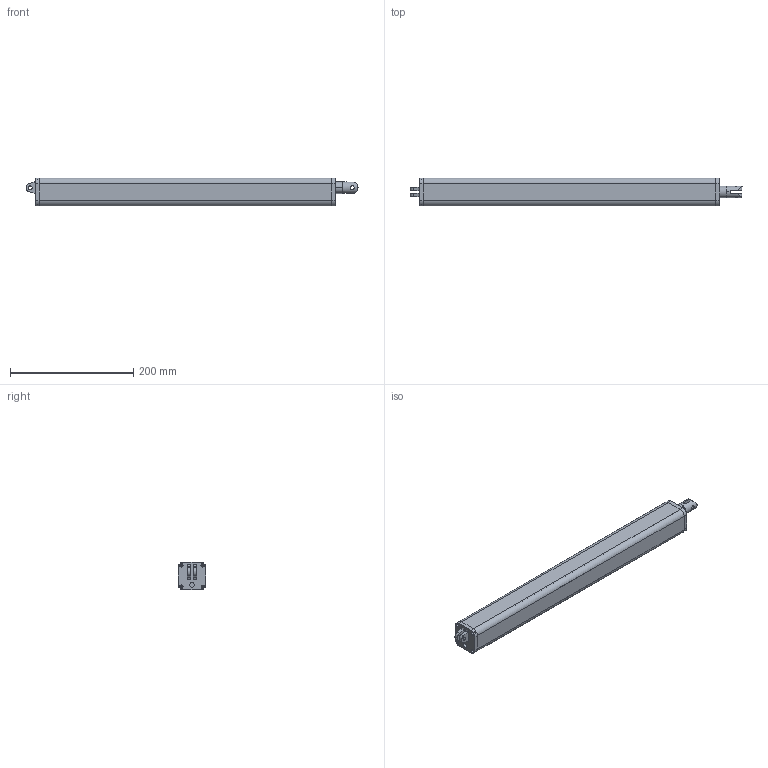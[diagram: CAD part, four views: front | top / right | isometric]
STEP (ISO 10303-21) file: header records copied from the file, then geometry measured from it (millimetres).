
FILE_DESCRIPTION((''),'2;1');
FILE_NAME('LAS4-S100_ASM','2007-07-11T',('amyliao'),(''),'PRO/ENGINEER BY PARAMETRIC TECHNOLOGY CORPORATION, 2003210','PRO/ENGINEER BY PARAMETRIC TECHNOLOGY CORPORATION, 2003210','');
FILE_SCHEMA(('CONFIG_CONTROL_DESIGN'));
Length unit declared in the file: millimetre
Products named in the file (7): OUT-TUBE; BACK-FIX; T1; T2; LAF-IN-TUBE; T3; LAS4-S100_ASM
Assembly tree (6 placements, depth 2):
  LAS4-S100_ASM
    OUT-TUBE
    BACK-FIX
    T1
    T2
    LAF-IN-TUBE
    T3
Bounding box: 538.85 x 45 x 45 mm (x, y, z)
Volume: 255966.7 mm3; surface area: 268597.9 mm2
Topology: 6 solids, 6 shells, 139 faces, 354 edges, 236 vertices
Faces by surface type: cylinder 83, plane 56
Entity records: 4641 total; most frequent: CARTESIAN_POINT 852, DIRECTION 814, ORIENTED_EDGE 708, EDGE_CURVE 354, AXIS2_PLACEMENT_3D 314, VERTEX_POINT 236, EDGE_LOOP 192, VECTOR 186
